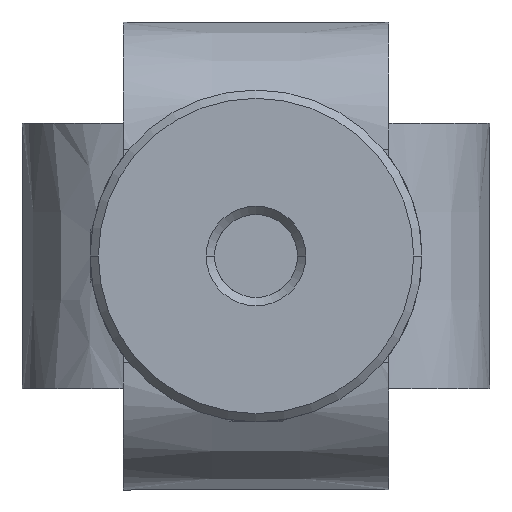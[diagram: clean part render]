
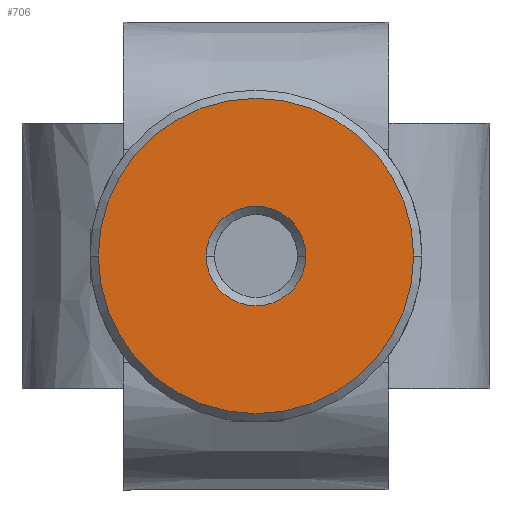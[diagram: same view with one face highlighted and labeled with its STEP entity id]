
A CAD part, front view. The second image highlights one B-rep face of the part: STEP entity #706.
In plain terms, the highlighted planar face has unit normal (0, -1, 0).
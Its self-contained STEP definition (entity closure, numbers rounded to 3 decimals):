
#137 = ORIENTED_EDGE ( 'NONE', *, *, #283, .T. ) ;
#198 = AXIS2_PLACEMENT_3D ( 'NONE', #2603, #5413, #7363 ) ;
#283 = EDGE_CURVE ( 'NONE', #7153, #2829, #3841, .T. ) ;
#480 = AXIS2_PLACEMENT_3D ( 'NONE', #943, #6774, #971 ) ;
#576 = DIRECTION ( 'NONE',  ( -1., 0., 0. ) ) ;
#706 = ADVANCED_FACE ( 'NONE', ( #5943, #2915 ), #7485, .T. ) ;
#710 = ORIENTED_EDGE ( 'NONE', *, *, #6189, .T. ) ;
#895 = CIRCLE ( 'NONE', #3723, 9.5 ) ;
#943 = CARTESIAN_POINT ( 'NONE',  ( 0., -35.24, 0. ) ) ;
#971 = DIRECTION ( 'NONE',  ( -1., 0., 0. ) ) ;
#1161 = EDGE_CURVE ( 'NONE', #6337, #5587, #5365, .T. ) ;
#1525 = ORIENTED_EDGE ( 'NONE', *, *, #1161, .T. ) ;
#2603 = CARTESIAN_POINT ( 'NONE',  ( 0., -35.24, 0. ) ) ;
#2658 = DIRECTION ( 'NONE',  ( -1., 0., 0. ) ) ;
#2829 = VERTEX_POINT ( 'NONE', #5531 ) ;
#2915 = FACE_OUTER_BOUND ( 'NONE', #7212, .T. ) ;
#2967 = EDGE_CURVE ( 'NONE', #5587, #6337, #895, .T. ) ;
#3723 = AXIS2_PLACEMENT_3D ( 'NONE', #6310, #6256, #3787 ) ;
#3787 = DIRECTION ( 'NONE',  ( -1., 0., 0. ) ) ;
#3841 = CIRCLE ( 'NONE', #6268, 3. ) ;
#4308 = CARTESIAN_POINT ( 'NONE',  ( -9.5, -35.24, 0. ) ) ;
#4421 = DIRECTION ( 'NONE',  ( 0., 1., 0. ) ) ;
#4448 = CARTESIAN_POINT ( 'NONE',  ( 0., -35.24, 0. ) ) ;
#5250 = CARTESIAN_POINT ( 'NONE',  ( 0., -35.24, 0. ) ) ;
#5302 = DIRECTION ( 'NONE',  ( 0., 1., 0. ) ) ;
#5365 = CIRCLE ( 'NONE', #198, 9.5 ) ;
#5413 = DIRECTION ( 'NONE',  ( 0., -1., 0. ) ) ;
#5531 = CARTESIAN_POINT ( 'NONE',  ( -3., -35.24, 0. ) ) ;
#5587 = VERTEX_POINT ( 'NONE', #4308 ) ;
#5943 = FACE_BOUND ( 'NONE', #7844, .T. ) ;
#6085 = ORIENTED_EDGE ( 'NONE', *, *, #2967, .T. ) ;
#6189 = EDGE_CURVE ( 'NONE', #2829, #7153, #7607, .T. ) ;
#6199 = CARTESIAN_POINT ( 'NONE',  ( 9.5, -35.24, 0. ) ) ;
#6256 = DIRECTION ( 'NONE',  ( 0., -1., 0. ) ) ;
#6268 = AXIS2_PLACEMENT_3D ( 'NONE', #4448, #4421, #576 ) ;
#6310 = CARTESIAN_POINT ( 'NONE',  ( 0., -35.24, 0. ) ) ;
#6337 = VERTEX_POINT ( 'NONE', #6199 ) ;
#6761 = CARTESIAN_POINT ( 'NONE',  ( 3., -35.24, 0. ) ) ;
#6774 = DIRECTION ( 'NONE',  ( 0., -1., 0. ) ) ;
#7153 = VERTEX_POINT ( 'NONE', #6761 ) ;
#7212 = EDGE_LOOP ( 'NONE', ( #1525, #6085 ) ) ;
#7363 = DIRECTION ( 'NONE',  ( -1., 0., 0. ) ) ;
#7485 = PLANE ( 'NONE',  #480 ) ;
#7607 = CIRCLE ( 'NONE', #8189, 3. ) ;
#7844 = EDGE_LOOP ( 'NONE', ( #710, #137 ) ) ;
#8189 = AXIS2_PLACEMENT_3D ( 'NONE', #5250, #5302, #2658 ) ;
